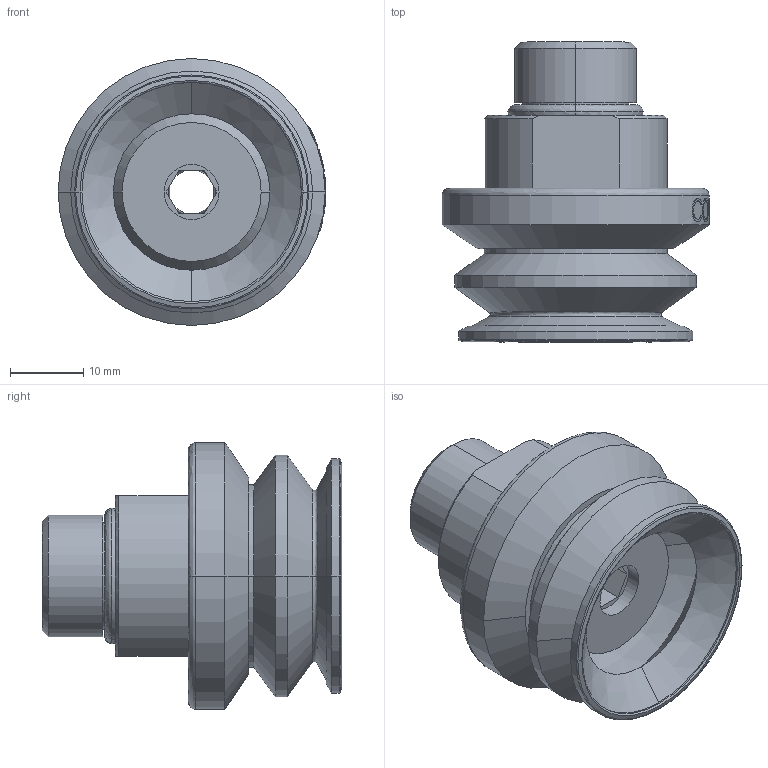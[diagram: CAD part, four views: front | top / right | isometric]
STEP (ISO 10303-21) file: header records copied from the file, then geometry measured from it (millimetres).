
FILE_DESCRIPTION (( 'STEP AP214' ), '1' );
FILE_NAME ('VBC 30.STEP', '2019-11-26T03:47:45', ( '微软用户' ), ( '微软中国' ), 'SwSTEP 2.0', 'SolidWorks 2016', '' );
FILE_SCHEMA (( 'AUTOMOTIVE_DESIGN' ));
Length unit declared in the file: millimetre
Products named in the file (1): VBC 30
Bounding box: 36.6 x 41 x 36.5 mm (x, y, z)
Volume: 17234.9 mm3; surface area: 10147.8 mm2
Topology: 3 solids, 3 shells, 158 faces, 375 edges, 236 vertices
Faces by surface type: bspline 45, plane 41, cylinder 40, cone 32
Entity records: 15771 total; most frequent: CARTESIAN_POINT 10476, ORIENTED_EDGE 750, DIRECTION 685, EDGE_CURVE 375, AXIS2_PLACEMENT_3D 265, VERTEX_POINT 236, EDGE_LOOP 177, UNCERTAINTY_MEASURE_WITH_UNIT 163
